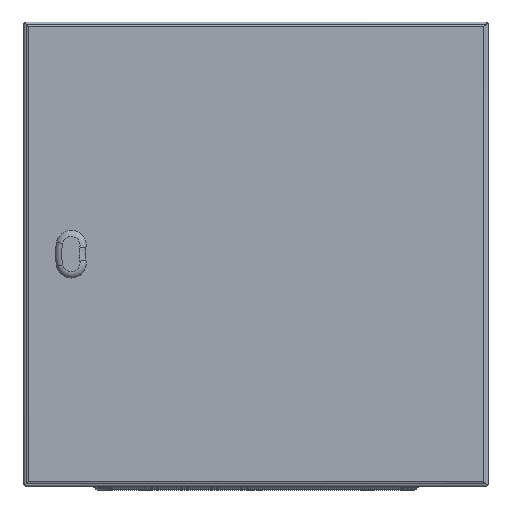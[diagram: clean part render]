
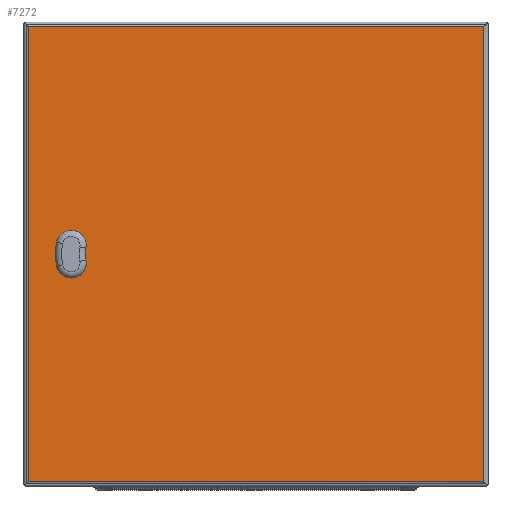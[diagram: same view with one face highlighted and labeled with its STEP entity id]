
A CAD part, front view. The second image highlights one B-rep face of the part: STEP entity #7272.
In plain terms, the highlighted planar face has unit normal (0, -1, 0).
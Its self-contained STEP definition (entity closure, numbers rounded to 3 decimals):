
#550=LINE('',#11891,#950);
#551=LINE('',#11894,#951);
#552=LINE('',#11896,#952);
#553=LINE('',#11898,#953);
#950=VECTOR('',#9492,1000.);
#951=VECTOR('',#9493,1000.);
#952=VECTOR('',#9494,1000.);
#953=VECTOR('',#9495,1000.);
#1780=ORIENTED_EDGE('',*,*,#3378,.F.);
#1781=ORIENTED_EDGE('',*,*,#3379,.T.);
#1782=ORIENTED_EDGE('',*,*,#3380,.T.);
#1783=ORIENTED_EDGE('',*,*,#3381,.T.);
#1784=ORIENTED_EDGE('',*,*,#3382,.F.);
#1785=ORIENTED_EDGE('',*,*,#3383,.F.);
#1786=ORIENTED_EDGE('',*,*,#3384,.T.);
#1787=ORIENTED_EDGE('',*,*,#3385,.T.);
#3378=EDGE_CURVE('',#4228,#4229,#4804,.T.);
#3379=EDGE_CURVE('',#4228,#4230,#4805,.T.);
#3380=EDGE_CURVE('',#4230,#4231,#4806,.T.);
#3381=EDGE_CURVE('',#4231,#4229,#4807,.T.);
#3382=EDGE_CURVE('',#4232,#4233,#550,.F.);
#3383=EDGE_CURVE('',#4234,#4232,#551,.T.);
#3384=EDGE_CURVE('',#4234,#4235,#552,.F.);
#3385=EDGE_CURVE('',#4235,#4233,#553,.T.);
#4228=VERTEX_POINT('',#11884);
#4229=VERTEX_POINT('',#11885);
#4230=VERTEX_POINT('',#11887);
#4231=VERTEX_POINT('',#11889);
#4232=VERTEX_POINT('',#11892);
#4233=VERTEX_POINT('',#11893);
#4234=VERTEX_POINT('',#11895);
#4235=VERTEX_POINT('',#11897);
#4804=CIRCLE('',#7976,34.3);
#4805=CIRCLE('',#7977,16.2);
#4806=CIRCLE('',#7978,60.7);
#4807=CIRCLE('',#7979,16.2);
#5408=EDGE_LOOP('',(#1780,#1781,#1782,#1783));
#5409=EDGE_LOOP('',(#1784,#1785,#1786,#1787));
#6292=FACE_BOUND('',#5408,.T.);
#6293=FACE_BOUND('',#5409,.T.);
#7000=PLANE('',#7975);
#7272=ADVANCED_FACE('',(#6292,#6293),#7000,.F.);
#7975=AXIS2_PLACEMENT_3D('',#11882,#9482,#9483);
#7976=AXIS2_PLACEMENT_3D('',#11883,#9484,#9485);
#7977=AXIS2_PLACEMENT_3D('',#11886,#9486,#9487);
#7978=AXIS2_PLACEMENT_3D('',#11888,#9488,#9489);
#7979=AXIS2_PLACEMENT_3D('',#11890,#9490,#9491);
#9482=DIRECTION('',(0.,1.,0.));
#9483=DIRECTION('',(0.,0.,1.));
#9484=DIRECTION('',(0.,1.,0.));
#9485=DIRECTION('',(1.,0.,0.));
#9486=DIRECTION('',(0.,1.,0.));
#9487=DIRECTION('',(1.,0.,0.));
#9488=DIRECTION('',(0.,1.,0.));
#9489=DIRECTION('',(1.,0.,0.));
#9490=DIRECTION('',(0.,1.,0.));
#9491=DIRECTION('',(1.,0.,0.));
#9492=DIRECTION('',(0.,0.,-1.));
#9493=DIRECTION('',(-1.,0.,0.));
#9494=DIRECTION('',(0.,0.,-1.));
#9495=DIRECTION('',(-1.,0.,0.));
#11882=CARTESIAN_POINT('',(0.,-16.5,0.));
#11883=CARTESIAN_POINT('',(-149.402,-16.5,0.));
#11884=CARTESIAN_POINT('',(-183.089,-16.5,-6.452));
#11885=CARTESIAN_POINT('',(-183.089,-16.5,6.452));
#11886=CARTESIAN_POINT('',(-199.,-16.5,-9.5));
#11887=CARTESIAN_POINT('',(-214.827,-16.5,-12.958));
#11888=CARTESIAN_POINT('',(-155.526,-16.5,0.));
#11889=CARTESIAN_POINT('',(-214.827,-16.5,12.958));
#11890=CARTESIAN_POINT('',(-199.,-16.5,9.5));
#11891=CARTESIAN_POINT('',(-245.,-16.5,250.));
#11892=CARTESIAN_POINT('',(-245.,-16.5,-245.));
#11893=CARTESIAN_POINT('',(-245.,-16.5,245.));
#11894=CARTESIAN_POINT('',(250.,-16.5,-245.));
#11895=CARTESIAN_POINT('',(245.,-16.5,-245.));
#11896=CARTESIAN_POINT('',(245.,-16.5,250.));
#11897=CARTESIAN_POINT('',(245.,-16.5,245.));
#11898=CARTESIAN_POINT('',(250.,-16.5,245.));
